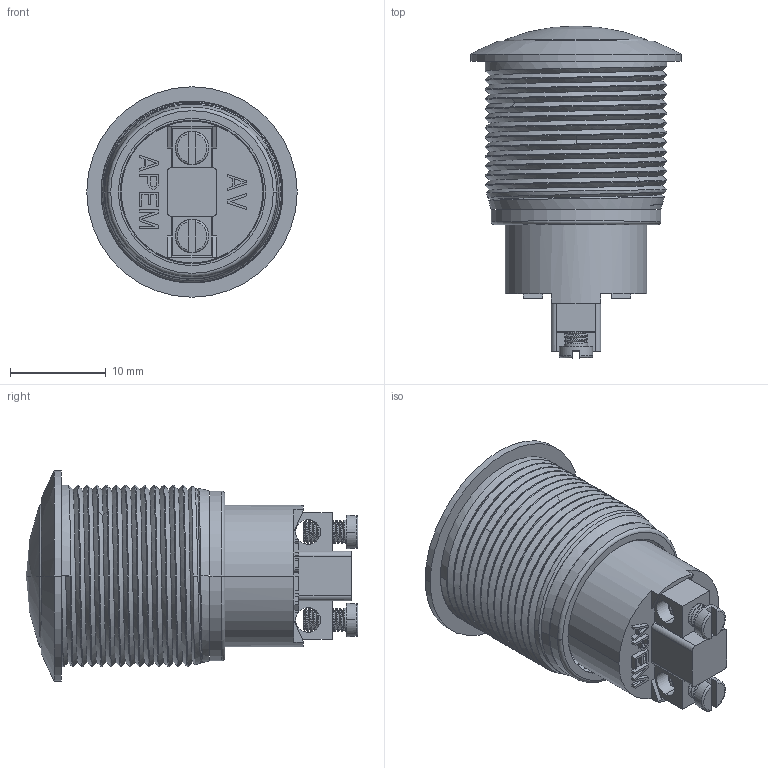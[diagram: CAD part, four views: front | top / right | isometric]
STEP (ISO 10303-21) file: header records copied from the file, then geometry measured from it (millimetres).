
FILE_DESCRIPTION((''),'2;1');
FILE_NAME('AV190003A940KUU','2012-09-25T',('jlgachon'),(''),'PRO/ENGINEER BY PARAMETRIC TECHNOLOGY CORPORATION, 2011250','PRO/ENGINEER BY PARAMETRIC TECHNOLOGY CORPORATION, 2011250','');
FILE_SCHEMA(('CONFIG_CONTROL_DESIGN'));
Length unit declared in the file: millimetre
Products named in the file (1): AV190003A940KUU
Bounding box: 22 x 34.7 x 22 mm (x, y, z)
Surface area: 2988.3 mm2 (no closed solid volume)
Topology: 0 solids, 10 shells, 232 faces, 709 edges, 481 vertices
Faces by surface type: plane 104, cylinder 86, bspline 24, cone 8, torus 8, sphere 2
Entity records: 19492 total; most frequent: CARTESIAN_POINT 13567, ORIENTED_EDGE 1267, DIRECTION 1020, EDGE_CURVE 707, VERTEX_POINT 481, VECTOR 422, LINE 422, AXIS2_PLACEMENT_3D 299
